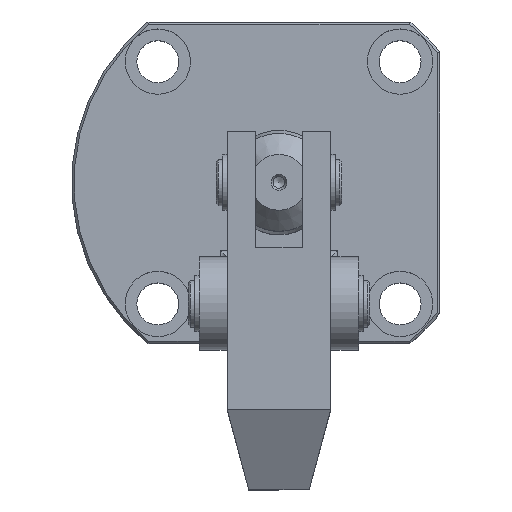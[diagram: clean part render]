
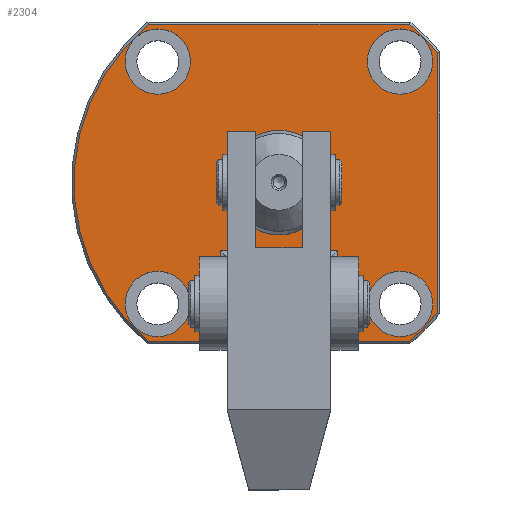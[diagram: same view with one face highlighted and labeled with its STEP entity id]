
A CAD part, top view. The second image highlights one B-rep face of the part: STEP entity #2304.
In plain terms, the highlighted planar face has unit normal (0, 0, 1).
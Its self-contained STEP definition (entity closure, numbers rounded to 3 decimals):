
#167=CIRCLE('',#2580,44.);
#168=CIRCLE('',#2583,44.);
#169=CIRCLE('',#2586,44.);
#170=CIRCLE('',#2589,11.2);
#171=CIRCLE('',#2591,7.);
#172=CIRCLE('',#2593,7.);
#173=CIRCLE('',#2595,7.);
#174=CIRCLE('',#2597,7.);
#283=PLANE('',#2598);
#360=LINE('',#3646,#483);
#372=LINE('',#3810,#495);
#373=LINE('',#3824,#496);
#374=LINE('',#3833,#497);
#376=LINE('',#3852,#499);
#377=LINE('',#3854,#500);
#378=LINE('',#3856,#501);
#483=VECTOR('',#2867,1000.);
#495=VECTOR('',#3023,1000.);
#496=VECTOR('',#3030,1000.);
#497=VECTOR('',#3037,1000.);
#499=VECTOR('',#3061,1000.);
#500=VECTOR('',#3062,1000.);
#501=VECTOR('',#3063,1000.);
#748=ORIENTED_EDGE('',*,*,#1180,.T.);
#749=ORIENTED_EDGE('',*,*,#1252,.T.);
#750=ORIENTED_EDGE('',*,*,#1253,.T.);
#751=ORIENTED_EDGE('',*,*,#1254,.T.);
#752=ORIENTED_EDGE('',*,*,#1245,.T.);
#753=ORIENTED_EDGE('',*,*,#1244,.T.);
#754=ORIENTED_EDGE('',*,*,#1242,.T.);
#755=ORIENTED_EDGE('',*,*,#1240,.T.);
#756=ORIENTED_EDGE('',*,*,#1238,.T.);
#757=ORIENTED_EDGE('',*,*,#1235,.T.);
#758=ORIENTED_EDGE('',*,*,#1247,.T.);
#759=ORIENTED_EDGE('',*,*,#1250,.F.);
#760=ORIENTED_EDGE('',*,*,#1249,.F.);
#761=ORIENTED_EDGE('',*,*,#1248,.F.);
#762=ORIENTED_EDGE('',*,*,#1251,.F.);
#1180=EDGE_CURVE('',#1462,#1461,#360,.T.);
#1235=EDGE_CURVE('',#1504,#1462,#167,.T.);
#1238=EDGE_CURVE('',#1505,#1504,#372,.T.);
#1240=EDGE_CURVE('',#1506,#1505,#168,.T.);
#1242=EDGE_CURVE('',#1507,#1506,#373,.T.);
#1244=EDGE_CURVE('',#1508,#1507,#169,.T.);
#1245=EDGE_CURVE('',#1509,#1508,#374,.T.);
#1247=EDGE_CURVE('',#1510,#1510,#170,.T.);
#1248=EDGE_CURVE('',#1511,#1511,#171,.T.);
#1249=EDGE_CURVE('',#1512,#1512,#172,.T.);
#1250=EDGE_CURVE('',#1513,#1513,#173,.T.);
#1251=EDGE_CURVE('',#1514,#1514,#174,.T.);
#1252=EDGE_CURVE('',#1461,#1515,#376,.F.);
#1253=EDGE_CURVE('',#1515,#1516,#377,.F.);
#1254=EDGE_CURVE('',#1516,#1509,#378,.F.);
#1461=VERTEX_POINT('',#3645);
#1462=VERTEX_POINT('',#3647);
#1504=VERTEX_POINT('',#3799);
#1505=VERTEX_POINT('',#3809);
#1506=VERTEX_POINT('',#3816);
#1507=VERTEX_POINT('',#3823);
#1508=VERTEX_POINT('',#3830);
#1509=VERTEX_POINT('',#3834);
#1510=VERTEX_POINT('',#3838);
#1511=VERTEX_POINT('',#3841);
#1512=VERTEX_POINT('',#3844);
#1513=VERTEX_POINT('',#3847);
#1514=VERTEX_POINT('',#3850);
#1515=VERTEX_POINT('',#3853);
#1516=VERTEX_POINT('',#3855);
#1742=EDGE_LOOP('',(#748,#749,#750,#751,#752,#753,#754,#755,#756,#757));
#1743=EDGE_LOOP('',(#758));
#1744=EDGE_LOOP('',(#759));
#1745=EDGE_LOOP('',(#760));
#1746=EDGE_LOOP('',(#761));
#1747=EDGE_LOOP('',(#762));
#2007=FACE_BOUND('',#1742,.T.);
#2008=FACE_BOUND('',#1743,.T.);
#2009=FACE_BOUND('',#1744,.T.);
#2010=FACE_BOUND('',#1745,.T.);
#2011=FACE_BOUND('',#1746,.T.);
#2012=FACE_BOUND('',#1747,.T.);
#2304=ADVANCED_FACE('',(#2007,#2008,#2009,#2010,#2011,#2012),#283,.T.);
#2580=AXIS2_PLACEMENT_3D('',#3798,#3019,#3020);
#2583=AXIS2_PLACEMENT_3D('',#3817,#3026,#3027);
#2586=AXIS2_PLACEMENT_3D('',#3831,#3033,#3034);
#2589=AXIS2_PLACEMENT_3D('',#3837,#3041,#3042);
#2591=AXIS2_PLACEMENT_3D('',#3840,#3045,#3046);
#2593=AXIS2_PLACEMENT_3D('',#3843,#3049,#3050);
#2595=AXIS2_PLACEMENT_3D('',#3846,#3053,#3054);
#2597=AXIS2_PLACEMENT_3D('',#3849,#3057,#3058);
#2598=AXIS2_PLACEMENT_3D('',#3851,#3059,#3060);
#2867=DIRECTION('',(1.,0.,0.));
#3019=DIRECTION('',(0.,0.,1.));
#3020=DIRECTION('',(0.,-1.,0.));
#3023=DIRECTION('',(-1.,0.,0.));
#3026=DIRECTION('',(0.,0.,1.));
#3027=DIRECTION('',(0.,-1.,0.));
#3030=DIRECTION('',(0.,1.,0.));
#3033=DIRECTION('',(0.,0.,1.));
#3034=DIRECTION('',(0.,-1.,0.));
#3037=DIRECTION('',(1.,0.,0.));
#3041=DIRECTION('',(0.,0.,-1.));
#3042=DIRECTION('',(0.,-1.,0.));
#3045=DIRECTION('',(0.,0.,1.));
#3046=DIRECTION('',(1.,0.,0.));
#3049=DIRECTION('',(0.,0.,1.));
#3050=DIRECTION('',(1.,0.,0.));
#3053=DIRECTION('',(0.,0.,1.));
#3054=DIRECTION('',(1.,0.,0.));
#3057=DIRECTION('',(0.,0.,1.));
#3058=DIRECTION('',(1.,0.,0.));
#3059=DIRECTION('',(0.,0.,1.));
#3060=DIRECTION('',(0.,-1.,0.));
#3061=DIRECTION('',(0.,-1.,0.));
#3062=DIRECTION('',(-1.,0.,0.));
#3063=DIRECTION('',(0.,1.,0.));
#3645=CARTESIAN_POINT('',(-23.35,2.5,17.9));
#3646=CARTESIAN_POINT('',(-10.75,2.5,17.9));
#3647=CARTESIAN_POINT('',(-38.678,2.5,17.9));
#3798=CARTESIAN_POINT('',(-10.75,36.5,17.9));
#3799=CARTESIAN_POINT('',(-38.678,70.5,17.9));
#3809=CARTESIAN_POINT('',(17.178,70.5,17.9));
#3810=CARTESIAN_POINT('',(-10.75,70.5,17.9));
#3816=CARTESIAN_POINT('',(23.25,64.428,17.9));
#3817=CARTESIAN_POINT('',(-10.75,36.5,17.9));
#3823=CARTESIAN_POINT('',(23.25,8.572,17.9));
#3824=CARTESIAN_POINT('',(23.25,36.5,17.9));
#3830=CARTESIAN_POINT('',(17.178,2.5,17.9));
#3831=CARTESIAN_POINT('',(-10.75,36.5,17.9));
#3833=CARTESIAN_POINT('',(-10.75,2.5,17.9));
#3834=CARTESIAN_POINT('',(1.85,2.5,17.9));
#3837=CARTESIAN_POINT('',(-10.75,36.5,17.9));
#3838=CARTESIAN_POINT('',(-10.75,25.3,17.9));
#3840=CARTESIAN_POINT('',(-36.75,10.5,17.9));
#3841=CARTESIAN_POINT('',(-29.75,10.5,17.9));
#3843=CARTESIAN_POINT('',(15.25,10.5,17.9));
#3844=CARTESIAN_POINT('',(22.25,10.5,17.9));
#3846=CARTESIAN_POINT('',(15.25,62.5,17.9));
#3847=CARTESIAN_POINT('',(22.25,62.5,17.9));
#3849=CARTESIAN_POINT('',(-36.75,62.5,17.9));
#3850=CARTESIAN_POINT('',(-29.75,62.5,17.9));
#3851=CARTESIAN_POINT('',(-10.75,36.5,17.9));
#3852=CARTESIAN_POINT('',(-23.35,20.5,17.9));
#3853=CARTESIAN_POINT('',(-23.35,22.,17.9));
#3854=CARTESIAN_POINT('',(-10.75,22.,17.9));
#3855=CARTESIAN_POINT('',(1.85,22.,17.9));
#3856=CARTESIAN_POINT('',(1.85,36.5,17.9));
